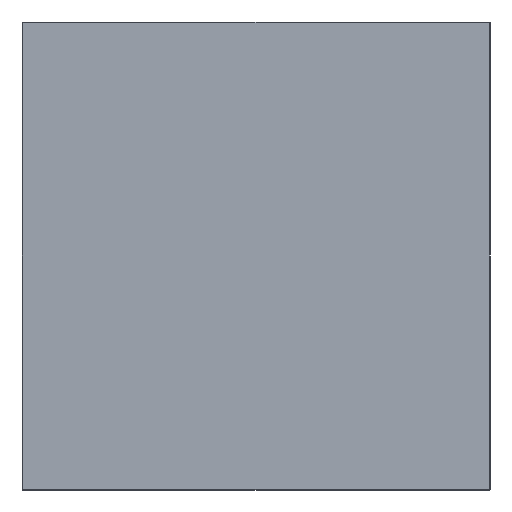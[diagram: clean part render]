
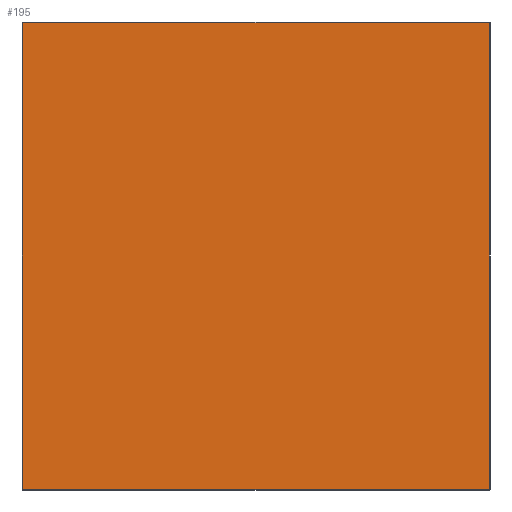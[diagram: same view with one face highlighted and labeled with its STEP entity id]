
A CAD part, front view. The second image highlights one B-rep face of the part: STEP entity #195.
In plain terms, the highlighted planar face has unit normal (0, -1, 0).
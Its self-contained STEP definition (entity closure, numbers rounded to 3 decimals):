
#15 = EDGE_CURVE ( 'NONE', #502, #624, #200, .T. ) ;
#28 = CARTESIAN_POINT ( 'NONE',  ( 0., 0., -297. ) ) ;
#29 = LINE ( 'NONE', #28, #154 ) ;
#34 = CARTESIAN_POINT ( 'NONE',  ( 0., 0., 297. ) ) ;
#68 = VECTOR ( 'NONE', #645, 1000. ) ;
#80 = DIRECTION ( 'NONE',  ( 1., 0., 0. ) ) ;
#89 = DIRECTION ( 'NONE',  ( 0., 0., -1. ) ) ;
#94 = AXIS2_PLACEMENT_3D ( 'NONE', #503, #348, #646 ) ;
#136 = VECTOR ( 'NONE', #89, 1000. ) ;
#145 = EDGE_LOOP ( 'NONE', ( #471, #198, #603, #520 ) ) ;
#154 = VECTOR ( 'NONE', #80, 1000. ) ;
#187 = CARTESIAN_POINT ( 'NONE',  ( -297., 0., 0. ) ) ;
#195 = ADVANCED_FACE ( 'NONE', ( #477 ), #600, .F. ) ;
#198 = ORIENTED_EDGE ( 'NONE', *, *, #514, .T. ) ;
#200 = LINE ( 'NONE', #488, #68 ) ;
#314 = EDGE_CURVE ( 'NONE', #550, #502, #29, .T. ) ;
#347 = EDGE_CURVE ( 'NONE', #614, #550, #639, .T. ) ;
#348 = DIRECTION ( 'NONE',  ( 0., 1., 0. ) ) ;
#366 = CARTESIAN_POINT ( 'NONE',  ( -297., 0., -297. ) ) ;
#377 = CARTESIAN_POINT ( 'NONE',  ( 297., 0., -297. ) ) ;
#420 = CARTESIAN_POINT ( 'NONE',  ( -297., 0., 297. ) ) ;
#471 = ORIENTED_EDGE ( 'NONE', *, *, #15, .T. ) ;
#477 = FACE_OUTER_BOUND ( 'NONE', #145, .T. ) ;
#488 = CARTESIAN_POINT ( 'NONE',  ( 297., 0., 0. ) ) ;
#502 = VERTEX_POINT ( 'NONE', #377 ) ;
#503 = CARTESIAN_POINT ( 'NONE',  ( 0., 0., 0. ) ) ;
#511 = CARTESIAN_POINT ( 'NONE',  ( 297., 0., 297. ) ) ;
#514 = EDGE_CURVE ( 'NONE', #624, #614, #611, .T. ) ;
#520 = ORIENTED_EDGE ( 'NONE', *, *, #314, .T. ) ;
#550 = VERTEX_POINT ( 'NONE', #366 ) ;
#570 = DIRECTION ( 'NONE',  ( -1., 0., 0. ) ) ;
#600 = PLANE ( 'NONE',  #94 ) ;
#603 = ORIENTED_EDGE ( 'NONE', *, *, #347, .T. ) ;
#611 = LINE ( 'NONE', #34, #620 ) ;
#614 = VERTEX_POINT ( 'NONE', #420 ) ;
#620 = VECTOR ( 'NONE', #570, 1000. ) ;
#624 = VERTEX_POINT ( 'NONE', #511 ) ;
#639 = LINE ( 'NONE', #187, #136 ) ;
#645 = DIRECTION ( 'NONE',  ( 0., 0., 1. ) ) ;
#646 = DIRECTION ( 'NONE',  ( 0., 0., 1. ) ) ;
